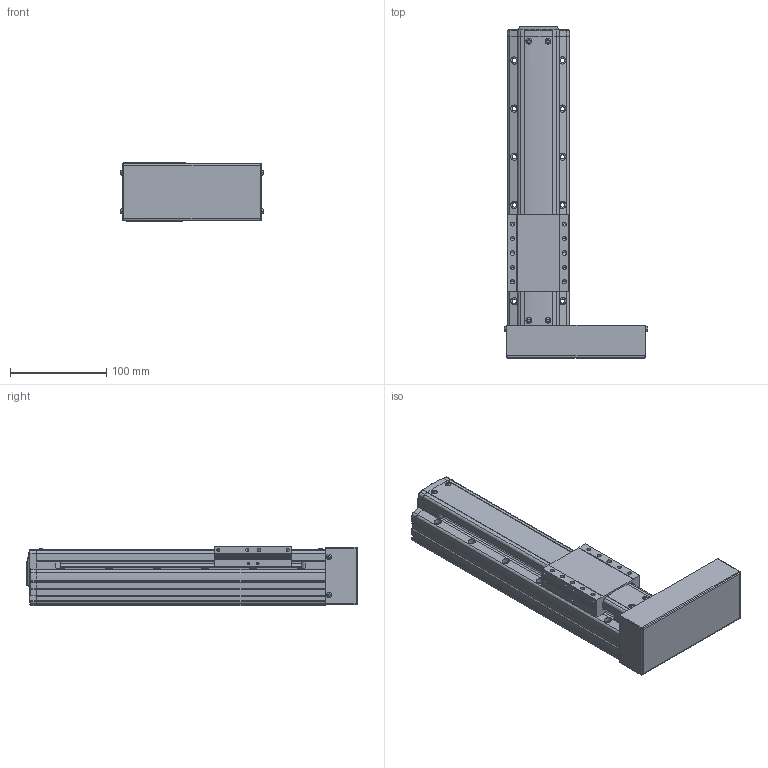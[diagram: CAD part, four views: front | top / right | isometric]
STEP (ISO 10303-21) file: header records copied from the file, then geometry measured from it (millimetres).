
FILE_DESCRIPTION(('STEP AP214'),'1');
FILE_NAME('Z:/Web/3D/PSA65/STP/PSA65-150 (3D)/PSA65ㅁㅁ-150PR.stp','2014-06-25T03:13:23',(' '),(' '),'Spatial InterOp 3D',' ',' ');
FILE_SCHEMA(('automotive_design'));
Length unit declared in the file: millimetre
Products named in the file (49): SLIDE; RRCV-PA060; 1; 2; 3; 4; 5; 6; 7; 8; 9; 10; 11; 12; 13; 14; 15; 16; 17; 18; 19; 20; 21; 22; 23; 24; 25; 26; 27; 28; 29; 30; 31; 스크루 : Round - M3.0 x 8.0; RN8 x 0.75; SHAFT-SAN65; BASE; 스크루 : Round - M3.0 x 6.0; BTCV-SAN65; BHCS M3 X 6L
Bounding box: 149.13 x 344.8 x 62 mm (x, y, z)
Volume: 1251566.4 mm3; surface area: 183070 mm2
Topology: 49 solids, 49 shells, 1705 faces, 4511 edges, 2879 vertices
Faces by surface type: plane 1032, cylinder 451, cone 157, sphere 30, bspline 19, torus 16
Entity records: 67694 total; most frequent: CARTESIAN_POINT 10735, DIRECTION 8960, ORIENTED_EDGE 8806, EDGE_CURVE 4403, LINE 3152, VECTOR 3152, AXIS2_PLACEMENT_3D 2904, VERTEX_POINT 2879
